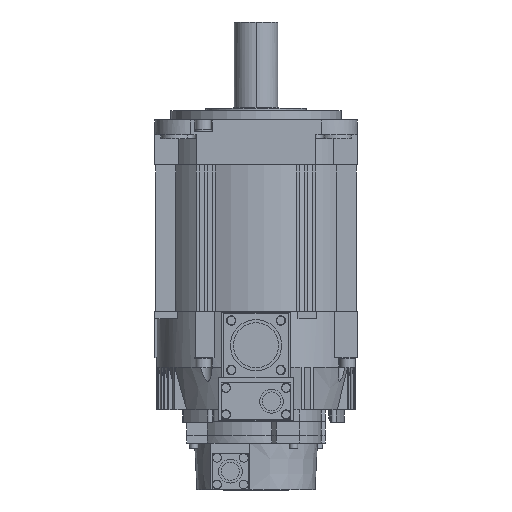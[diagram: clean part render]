
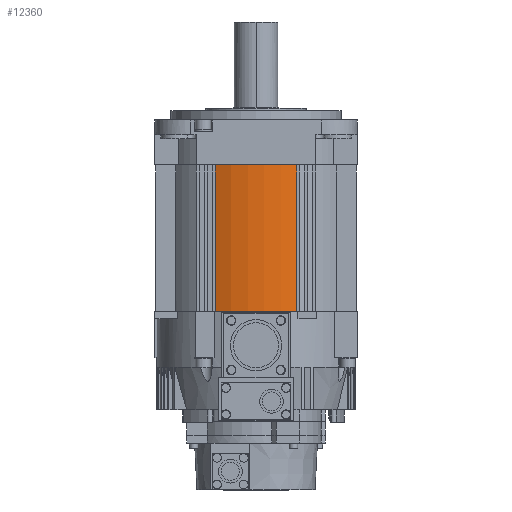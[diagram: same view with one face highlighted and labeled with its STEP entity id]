
A CAD part, front view. The second image highlights one B-rep face of the part: STEP entity #12360.
In plain terms, the highlighted cylindrical face has radius 64.3 mm (diameter 128.6 mm), a partial arc.
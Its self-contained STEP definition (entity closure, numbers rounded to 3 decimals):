
#12079 = VERTEX_POINT ( 'NONE', #21220 ) ;
#12167 = VERTEX_POINT ( 'NONE', #21390 ) ;
#12169 = EDGE_CURVE ( 'NONE', #12167, #12079, #21389, .T. ) ;
#12337 = ORIENTED_EDGE ( 'NONE', *, *, #12169, .F. ) ;
#12338 = ORIENTED_EDGE ( 'NONE', *, *, #12339, .F. ) ;
#12339 = EDGE_CURVE ( 'NONE', #12340, #12167, #21772, .T. ) ;
#12340 = VERTEX_POINT ( 'NONE', #21768 ) ;
#12341 = ORIENTED_EDGE ( 'NONE', *, *, #12342, .F. ) ;
#12342 = EDGE_CURVE ( 'NONE', #12423, #12340, #21767, .T. ) ;
#12360 = ADVANCED_FACE ( 'NONE', ( #21790 ), #21788, .T. ) ;
#12361 = EDGE_LOOP ( 'NONE', ( #12421, #12337, #12338, #12341 ) ) ;
#12421 = ORIENTED_EDGE ( 'NONE', *, *, #12422, .F. ) ;
#12422 = EDGE_CURVE ( 'NONE', #12079, #12423, #21930, .T. ) ;
#12423 = VERTEX_POINT ( 'NONE', #21926 ) ;
#21220 = CARTESIAN_POINT ( 'NONE',  ( -26.3, -58.675, -123. ) ) ;
#21385 = DIRECTION ( 'NONE',  ( 1., 0., 0. ) ) ;
#21386 = DIRECTION ( 'NONE',  ( 0., 0., -1. ) ) ;
#21387 = CARTESIAN_POINT ( 'NONE',  ( 0., 0., -123. ) ) ;
#21388 = AXIS2_PLACEMENT_3D ( 'NONE', #21387, #21386, #21385 ) ;
#21389 = CIRCLE ( 'NONE', #21388, 64.3 ) ;
#21390 = CARTESIAN_POINT ( 'NONE',  ( 26.3, -58.675, -123. ) ) ;
#21762 = DIRECTION ( 'NONE',  ( 1., 0., 0. ) ) ;
#21764 = DIRECTION ( 'NONE',  ( 0., 0., 1. ) ) ;
#21765 = CARTESIAN_POINT ( 'NONE',  ( 0., 0., -29. ) ) ;
#21766 = AXIS2_PLACEMENT_3D ( 'NONE', #21765, #21764, #21762 ) ;
#21767 = CIRCLE ( 'NONE', #21766, 64.3 ) ;
#21768 = CARTESIAN_POINT ( 'NONE',  ( 26.3, -58.675, -29. ) ) ;
#21769 = DIRECTION ( 'NONE',  ( 0., 0., -1. ) ) ;
#21770 = VECTOR ( 'NONE', #21769, 1000. ) ;
#21771 = CARTESIAN_POINT ( 'NONE',  ( 26.3, -58.675, -304.868 ) ) ;
#21772 = LINE ( 'NONE', #21771, #21770 ) ;
#21784 = DIRECTION ( 'NONE',  ( 1., 0., 0. ) ) ;
#21785 = DIRECTION ( 'NONE',  ( 0., 0., 1. ) ) ;
#21786 = CARTESIAN_POINT ( 'NONE',  ( 0., 0., -304.868 ) ) ;
#21787 = AXIS2_PLACEMENT_3D ( 'NONE', #21786, #21785, #21784 ) ;
#21788 = CYLINDRICAL_SURFACE ( 'NONE', #21787, 64.3 ) ;
#21790 = FACE_OUTER_BOUND ( 'NONE', #12361, .T. ) ;
#21926 = CARTESIAN_POINT ( 'NONE',  ( -26.3, -58.675, -29. ) ) ;
#21927 = DIRECTION ( 'NONE',  ( 0., 0., 1. ) ) ;
#21928 = VECTOR ( 'NONE', #21927, 1000. ) ;
#21929 = CARTESIAN_POINT ( 'NONE',  ( -26.3, -58.675, -304.868 ) ) ;
#21930 = LINE ( 'NONE', #21929, #21928 ) ;
